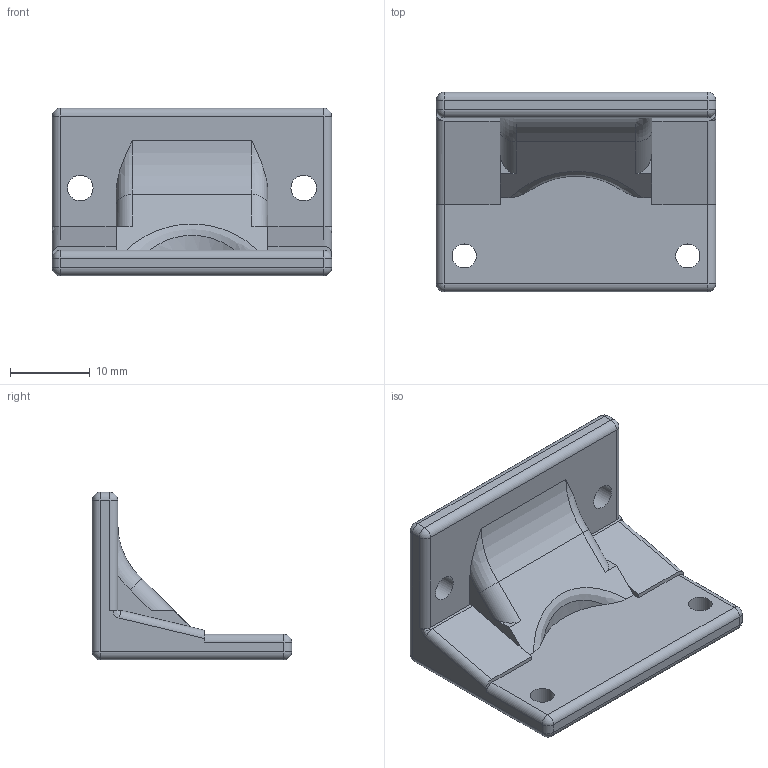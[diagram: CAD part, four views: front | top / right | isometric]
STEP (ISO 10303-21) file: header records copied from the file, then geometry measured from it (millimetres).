
FILE_DESCRIPTION(/* description */ (''),/* implementation_level */ '2;1');
FILE_NAME(/* name */ 'Vinkel_VC.step',/* time_stamp */ '2026-06-21T17:26:22+02:00',/* author */ (''),/* organization */ (''),/* preprocessor_version */ 'ST-DEVELOPER v20.1',/* originating_system */ 'Autodesk Translation Framework v15.8.0.0',/* authorisation */ '');
FILE_SCHEMA (('AUTOMOTIVE_DESIGN { 1 0 10303 214 3 1 1 }'));
Length unit declared in the file: millimetre
Products named in the file (2): 2026-06-11-08-03-41-367; 2026-06-11-13-21-08-521
Assembly tree (1 placements, depth 2):
  2026-06-11-08-03-41-367
    2026-06-11-13-21-08-521
Bounding box: 35 x 25 x 21 mm (x, y, z)
Volume: 5870.2 mm3; surface area: 3358.5 mm2
Topology: 1 solids, 1 shells, 63 faces, 149 edges, 86 vertices
Faces by surface type: cylinder 27, plane 21, sphere 10, bspline 3, torus 2
Full cylindrical faces by diameter (mm): 3 x2, 3.2 x2
Entity records: 1962 total; most frequent: CARTESIAN_POINT 422, DIRECTION 326, ORIENTED_EDGE 294, EDGE_CURVE 147, AXIS2_PLACEMENT_3D 122, VERTEX_POINT 86, LINE 82, VECTOR 82
